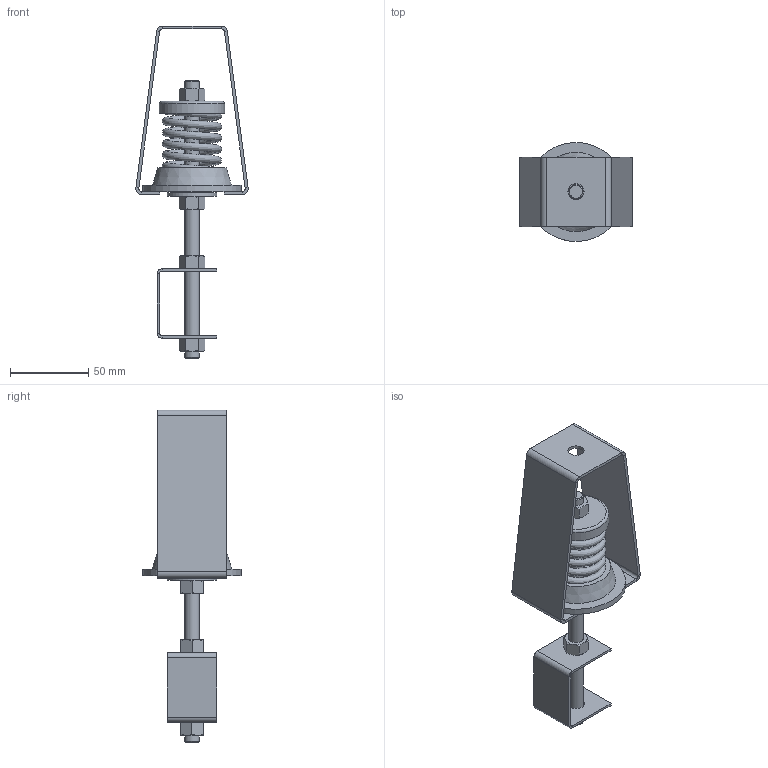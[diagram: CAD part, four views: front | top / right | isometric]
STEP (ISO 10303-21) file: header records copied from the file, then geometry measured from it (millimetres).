
FILE_DESCRIPTION(/* description */ (''),/* implementation_level */ '2;1');
FILE_NAME(/* name */ 'C:\001_Work\Designs\HANGER BOXES\ARCHITECTURAL CEILING HANGERS\30CC-X\30CC-X.stp',/* time_stamp */ '2016-01-28T09:33:36-05:00',/* author */ ('rramoutar'),/* organization */ ('Mason Industries Inc.'),/* preprocessor_version */ 'ST-DEVELOPER v15.6',/* originating_system */ 'Autodesk Inventor 2015',/* authorisation */ '');
FILE_SCHEMA (('CONFIG_CONTROL_DESIGN'));
Length unit declared in the file: inch
Products named in the file (1): 30CC-X-210 (A-32225)
Bounding box: 71.95 x 63.36 x 212.72 mm (x, y, z)
Volume: 85971 mm3; surface area: 73715.6 mm2
Topology: 13 solids, 13 shells, 194 faces, 390 edges, 226 vertices
Faces by surface type: plane 100, cone 59, cylinder 33, torus 1, bspline 1
Full cylindrical faces by diameter (mm): 7.798 x4, 9.525 x1, 10.319 x3, 11.112 x2, 20.637 x1, 25.4 x1, 26.987 x2, 31.75 x1, 38.1 x1, 38.894 x1, 39.687 x1, 39.688 x1, 41.906 x1, 63.5 x1
Entity records: 6211 total; most frequent: CARTESIAN_POINT 2284, DIRECTION 768, ORIENTED_EDGE 702, EDGE_CURVE 351, AXIS2_PLACEMENT_3D 323, EDGE_LOOP 255, VERTEX_POINT 220, STYLED_ITEM 207
